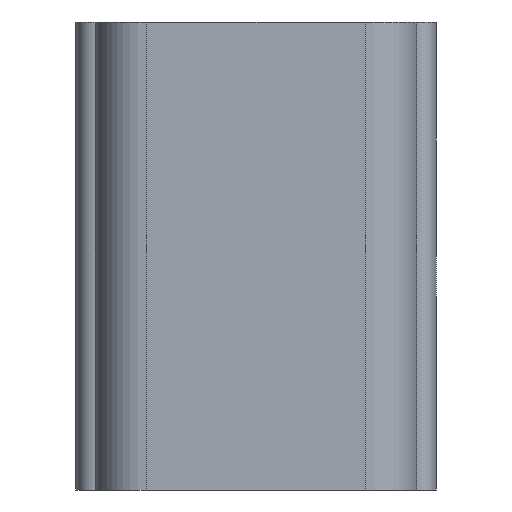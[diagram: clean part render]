
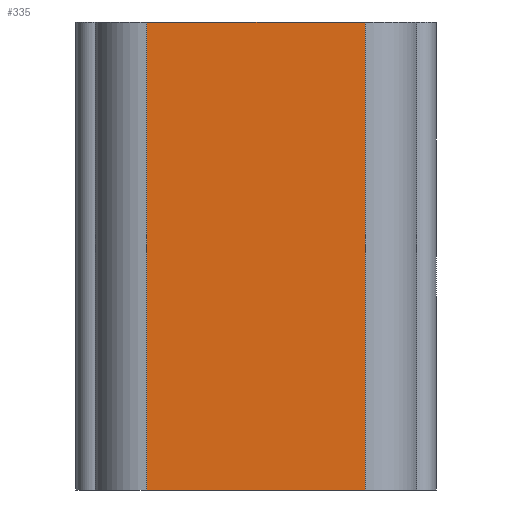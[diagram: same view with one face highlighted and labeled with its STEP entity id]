
A CAD part, front view. The second image highlights one B-rep face of the part: STEP entity #335.
In plain terms, the highlighted planar face has unit normal (0, -1, 0).
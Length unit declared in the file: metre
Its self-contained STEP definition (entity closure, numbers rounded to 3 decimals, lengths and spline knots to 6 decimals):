
#18=PLANE('',#359);
#47=LINE('',#746,#79);
#48=LINE('',#755,#80);
#49=LINE('',#757,#81);
#50=LINE('',#759,#82);
#79=VECTOR('',#402,1.);
#80=VECTOR('',#405,1.);
#81=VECTOR('',#406,1.);
#82=VECTOR('',#407,1.);
#138=ORIENTED_EDGE('',*,*,#222,.T.);
#139=ORIENTED_EDGE('',*,*,#223,.F.);
#140=ORIENTED_EDGE('',*,*,#224,.F.);
#141=ORIENTED_EDGE('',*,*,#220,.T.);
#220=EDGE_CURVE('',#257,#256,#47,.T.);
#222=EDGE_CURVE('',#256,#258,#48,.T.);
#223=EDGE_CURVE('',#259,#258,#49,.T.);
#224=EDGE_CURVE('',#257,#259,#50,.T.);
#256=VERTEX_POINT('',#745);
#257=VERTEX_POINT('',#747);
#258=VERTEX_POINT('',#756);
#259=VERTEX_POINT('',#758);
#291=EDGE_LOOP('',(#138,#139,#140,#141));
#309=FACE_BOUND('',#291,.T.);
#335=ADVANCED_FACE('',(#309),#18,.F.);
#359=AXIS2_PLACEMENT_3D('',#754,#403,#404);
#402=DIRECTION('',(0.,0.,-1.));
#403=DIRECTION('',(0.,1.,0.));
#404=DIRECTION('',(-1.,0.,0.));
#405=DIRECTION('',(1.,0.,0.));
#406=DIRECTION('',(0.,0.,-1.));
#407=DIRECTION('',(1.,0.,0.));
#745=CARTESIAN_POINT('',(-0.005376,-0.00795,0.));
#746=CARTESIAN_POINT('',(-0.005376,-0.00795,0.023));
#747=CARTESIAN_POINT('',(-0.005376,-0.00795,0.023));
#754=CARTESIAN_POINT('',(-0.002757,-0.00795,0.023));
#755=CARTESIAN_POINT('',(-0.002757,-0.00795,0.));
#756=CARTESIAN_POINT('',(0.005376,-0.00795,0.));
#757=CARTESIAN_POINT('',(0.005376,-0.00795,0.023));
#758=CARTESIAN_POINT('',(0.005376,-0.00795,0.023));
#759=CARTESIAN_POINT('',(-0.002757,-0.00795,0.023));
